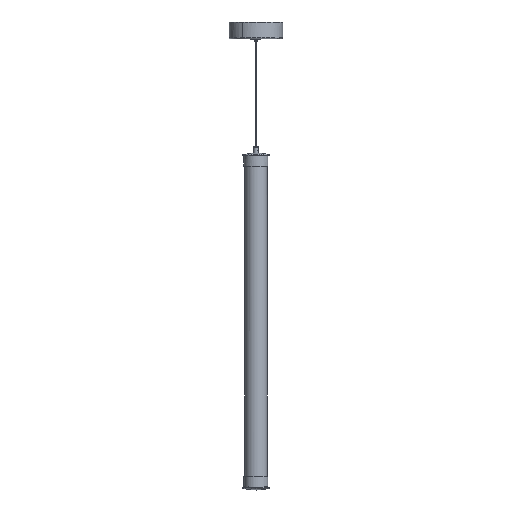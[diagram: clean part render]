
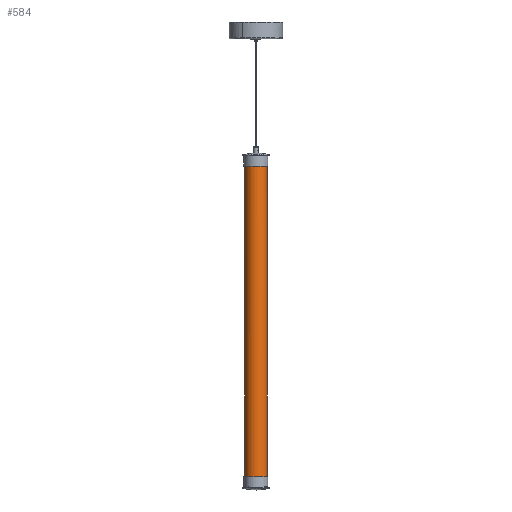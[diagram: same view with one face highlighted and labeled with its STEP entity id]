
A CAD part, front view. The second image highlights one B-rep face of the part: STEP entity #584.
In plain terms, the highlighted cylindrical face has radius 30 mm (diameter 60 mm), a partial arc.
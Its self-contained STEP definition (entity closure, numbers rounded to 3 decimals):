
#584=ADVANCED_FACE('',(#1209),#10014,.T.);
#1209=FACE_OUTER_BOUND('',#1852,.T.);
#1852=EDGE_LOOP('',(#3042,#3043,#3044,#3045));
#3042=ORIENTED_EDGE('',*,*,#5860,.T.);
#3043=ORIENTED_EDGE('',*,*,#5855,.T.);
#3044=ORIENTED_EDGE('',*,*,#5854,.T.);
#3045=ORIENTED_EDGE('',*,*,#5859,.F.);
#5854=EDGE_CURVE('',#8852,#8856,#7272,.T.);
#5855=EDGE_CURVE('',#8849,#8852,#8063,.T.);
#5859=EDGE_CURVE('',#8855,#8856,#8065,.T.);
#5860=EDGE_CURVE('',#8855,#8849,#7275,.T.);
#7272=(
BOUNDED_CURVE()
B_SPLINE_CURVE(2,(#12628,#12629,#12630,#12631,#12632),.UNSPECIFIED.,.F.,
 .F.)
B_SPLINE_CURVE_WITH_KNOTS((3,2,3),(0.,47.124,94.248),
 .UNSPECIFIED.)
CURVE()
GEOMETRIC_REPRESENTATION_ITEM()
RATIONAL_B_SPLINE_CURVE((1.,0.707,1.,0.707,1.))
REPRESENTATION_ITEM('')
);
#7275=(
BOUNDED_CURVE()
B_SPLINE_CURVE(2,(#12649,#12650,#12651,#12652,#12653),.UNSPECIFIED.,.F.,
 .F.)
B_SPLINE_CURVE_WITH_KNOTS((3,2,3),(94.248,141.372,188.496),
 .UNSPECIFIED.)
CURVE()
GEOMETRIC_REPRESENTATION_ITEM()
RATIONAL_B_SPLINE_CURVE((1.,0.707,1.,0.707,1.))
REPRESENTATION_ITEM('')
);
#8063=B_SPLINE_CURVE_WITH_KNOTS('',1,(#12633,#12634),.UNSPECIFIED.,.F.,
 .F.,(2,2),(87.22,958.22),.UNSPECIFIED.);
#8065=B_SPLINE_CURVE_WITH_KNOTS('',1,(#12647,#12648),.UNSPECIFIED.,.F.,
 .F.,(2,2),(87.22,958.22),.UNSPECIFIED.);
#8849=VERTEX_POINT('',#12603);
#8852=VERTEX_POINT('',#12606);
#8855=VERTEX_POINT('',#12609);
#8856=VERTEX_POINT('',#12610);
#10014=CYLINDRICAL_SURFACE('',#10369,30.);
#10369=AXIS2_PLACEMENT_3D('',#12602,#10877,$);
#10877=DIRECTION('',(0.,0.,-1.));
#12602=CARTESIAN_POINT('',(0.,0.,-818.564));
#12603=CARTESIAN_POINT('',(-30.,0.,-383.064));
#12606=CARTESIAN_POINT('',(-30.,0.,-1254.064));
#12609=CARTESIAN_POINT('',(30.,0.,-383.064));
#12610=CARTESIAN_POINT('',(30.,0.,-1254.064));
#12628=CARTESIAN_POINT('',(-30.,0.,-1254.064));
#12629=CARTESIAN_POINT('',(-30.,-30.,-1254.064));
#12630=CARTESIAN_POINT('',(0.,-30.,-1254.064));
#12631=CARTESIAN_POINT('',(30.,-30.,-1254.064));
#12632=CARTESIAN_POINT('',(30.,0.,-1254.064));
#12633=CARTESIAN_POINT('',(-30.,0.,-383.064));
#12634=CARTESIAN_POINT('',(-30.,0.,-1254.064));
#12647=CARTESIAN_POINT('',(30.,0.,-383.064));
#12648=CARTESIAN_POINT('',(30.,0.,-1254.064));
#12649=CARTESIAN_POINT('',(30.,0.,-383.064));
#12650=CARTESIAN_POINT('',(30.,-30.,-383.064));
#12651=CARTESIAN_POINT('',(0.,-30.,-383.064));
#12652=CARTESIAN_POINT('',(-30.,-30.,-383.064));
#12653=CARTESIAN_POINT('',(-30.,0.,-383.064));
